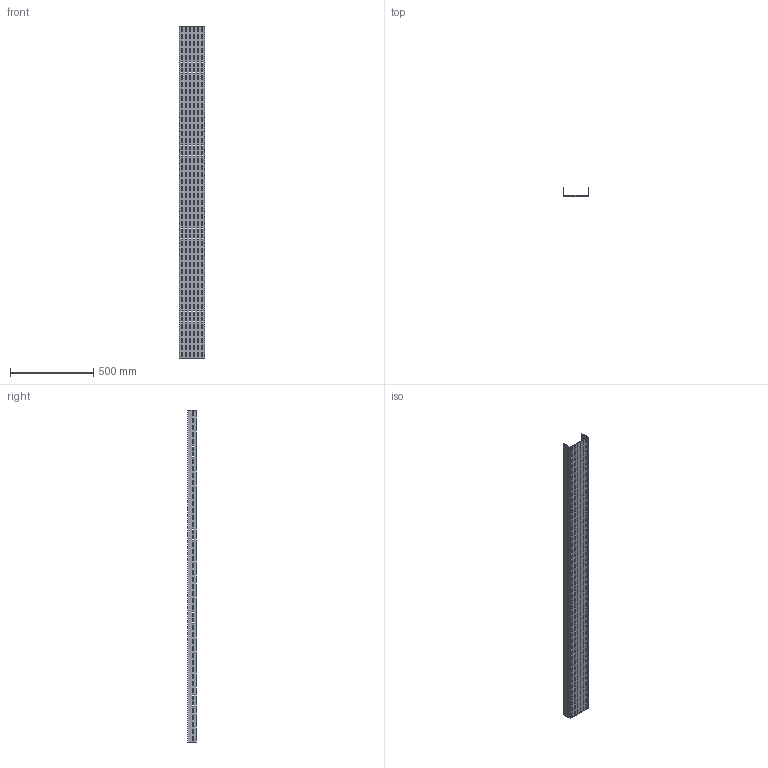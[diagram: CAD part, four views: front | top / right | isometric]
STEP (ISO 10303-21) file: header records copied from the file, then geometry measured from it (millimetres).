
FILE_DESCRIPTION (( 'STEP AP214' ), '1' );
FILE_NAME ('01F2B150.step', '2025-02-21T13:17:20', ( '' ), ( '' ), 'SwSTEP 2.0', 'SolidWorks 2023', '' );
FILE_SCHEMA (( 'AUTOMOTIVE_DESIGN' ));
Length unit declared in the file: millimetre
Products named in the file (1): 01F2B150
Bounding box: 154 x 52 x 2000 mm (x, y, z)
Volume: 1521800 mm3; surface area: 971373 mm2
Topology: 1 solids, 1 shells, 1546 faces, 4632 edges, 3088 vertices
Faces by surface type: plane 1546
Entity records: 52535 total; most frequent: CARTESIAN_POINT 9267, ORIENTED_EDGE 9264, DIRECTION 7726, LINE 4632, VECTOR 4632, EDGE_CURVE 4632, VERTEX_POINT 3088, EDGE_LOOP 2314
